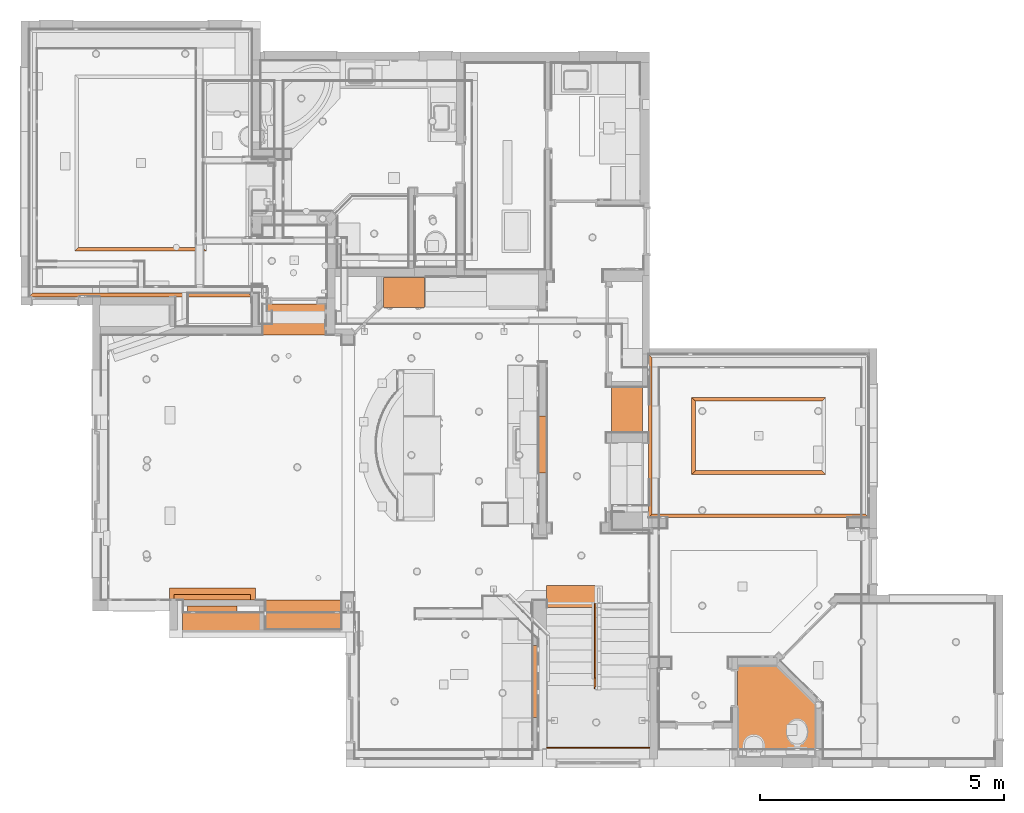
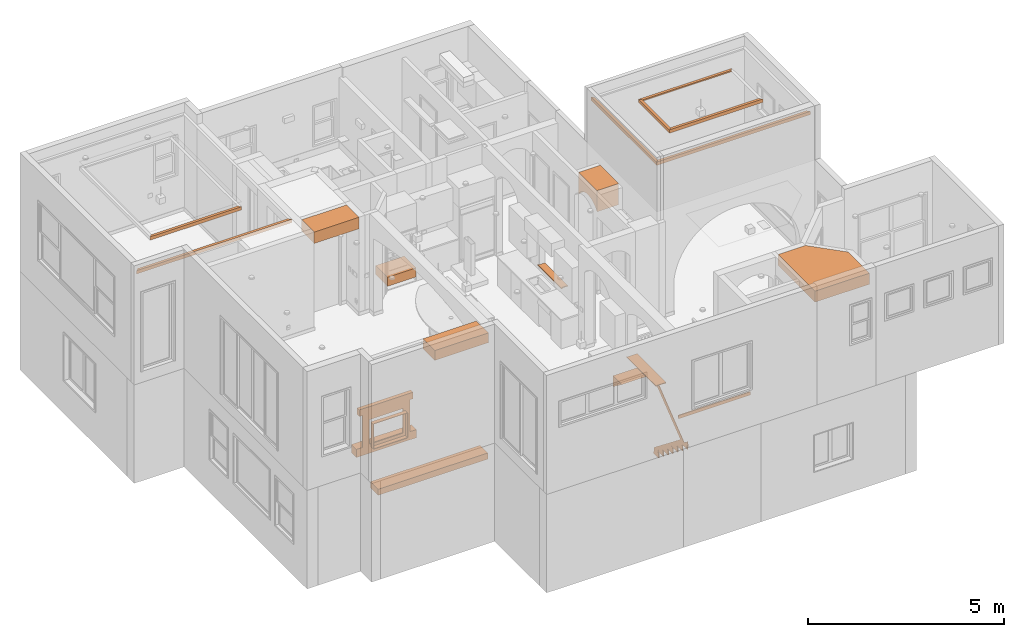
# One storey, part 50 of 60: 19 proxies.
"""IFC2X3 building model written with IfcOpenShell, lengths in feet."""

from ifc_helpers import new_model, entity, si_unit, converted_unit, direction, frame, frame_2d, origin, origin_2d_with_axis, place, context, subcontext, project, spatial, polyline, circle_curve, parameter, trimmed, segment, composite_curve, rectangle, outline, extrude, faceted_brep, source, transform, mapped, material, type_object, type_shapes, element, save


model = new_model("IFC2X3")

# Units and contexts
model_context = context("Model", 3, precision=0.0001, world=origin(), true_north=direction((6.123031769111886e-17, 1.0)))
plan_context = context("Plan", 3, precision=0.0001, world=origin(), true_north=direction((6.123031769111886e-17, 1.0)))
body_context = subcontext(model_context, "Body", "Model", "MODEL_VIEW")
ifc_project = project(units=[converted_unit("LENGTHUNIT", "FOOT", entity("IfcLengthMeasure", 0.3048), si_unit("LENGTHUNIT", "METRE"), dimensions=[1, 0, 0, 0, 0, 0, 0]), converted_unit("AREAUNIT", "SQUARE FOOT", entity("IfcAreaMeasure", 0.09290304), si_unit("AREAUNIT", "SQUARE_METRE"), dimensions=[2, 0, 0, 0, 0, 0, 0]), converted_unit("PLANEANGLEUNIT", "DEGREE", entity("IfcPlaneAngleMeasure", 0.017453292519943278), si_unit("PLANEANGLEUNIT", "RADIAN"), dimensions=[0, 0, 0, 0, 0, 0, 0])], contexts=[model_context, plan_context])

# Site, building, storey
site_placement = place(None, origin())
site = spatial("IfcSite", under=ifc_project, at=site_placement, Name="Default", CompositionType="ELEMENT")
building_placement = place(site_placement, origin())
building = spatial("IfcBuilding", under=site, at=building_placement, CompositionType="ELEMENT")
storey_placement = place(building_placement, origin())
storey = spatial("IfcBuildingStorey", under=building, at=storey_placement, Name="First floor", CompositionType="ELEMENT", Elevation=0.0)

# Proxies
ifc_material = material(Name="Default New Material")
building_element_proxy_type_1 = type_object("IfcBuildingElementProxyType", Name="Generic Models 23:Generic Models 16", PredefinedType="NOTDEFINED", material=ifc_material)
shared_shape_1 = source(origin(), body_context, "Body", "SweptSolid", [
    extrude(outline(polyline([(-2.989399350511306, -2.6272673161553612), (3.1772673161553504, -2.6272673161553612), (3.1772673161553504, 2.6227326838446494), (-0.3757359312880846, 2.6227326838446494), (-2.9893993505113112, 0.009069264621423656), (-2.989399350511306, -2.6272673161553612)])), frame((28.91893398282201, 3.843933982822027, -0.4583333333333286), z_axis=(0.0, 0.0, 1.0), x_axis=(0.0, -1.0, 0.0)), (0.0, 0.0, 1.0), 1.1249999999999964),
])
type_shapes(building_element_proxy_type_1, [shared_shape_1])
proxy_1_placement = place(storey_placement, frame((0.0, 0.0, 20.0)))
element("IfcBuildingElementProxy", 1, at=proxy_1_placement, inside=storey, type_object=building_element_proxy_type_1, material=ifc_material, Name="Generic Models 23:Generic Models 16", ObjectType="Generic Models 23:Generic Models 16", context=body_context, shape_type="MappedRepresentation", body=[
    mapped(shared_shape_1, transform((0.0, 0.0, 0.0), scale=1.0)),
])
building_element_proxy_type_2 = type_object("IfcBuildingElementProxyType", Name="Generic Models 7:Generic Models 7", PredefinedType="NOTDEFINED", material=ifc_material)
shared_shape_2 = source(origin(), body_context, "Body", "SweptSolid", [
    extrude(outline(polyline([(-3.7977218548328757, -0.26228241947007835), (3.4128260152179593, -0.2622824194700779), (3.2791945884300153, -0.09245088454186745), (3.3446850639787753, -0.04091990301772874), (3.168007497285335, 0.1836187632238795), (3.144575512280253, -0.012809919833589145), (2.8466620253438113, 0.3658068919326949), (2.1543342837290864, -0.17894908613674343), (2.1156860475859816, -0.129831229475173), (2.1296455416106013, -0.01280977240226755), (1.8317320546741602, 0.3658070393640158), (1.1394039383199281, -0.17894923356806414), (1.1007557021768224, -0.12983137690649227), (1.1147151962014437, -0.012809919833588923), (0.8168017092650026, 0.36580689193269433), (0.12447396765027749, -0.17894908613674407), (0.08582573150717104, -0.12983122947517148), (0.09978522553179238, -0.01280977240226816), (-0.1981282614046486, 0.3658070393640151), (-0.8904561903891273, -0.17894908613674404), (-0.9291044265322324, -0.12983122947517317), (-0.9151449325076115, -0.01280977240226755), (-1.2130584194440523, 0.3658070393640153), (-1.9053863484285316, -0.17894908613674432), (-1.9440345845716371, -0.12983122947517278), (-1.9300750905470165, -0.012809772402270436), (-2.2279885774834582, 0.36580703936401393), (-2.9203164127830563, -0.17894901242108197), (-2.9589646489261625, -0.12983115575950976), (-2.9450051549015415, -0.012809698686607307), (-3.242918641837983, 0.3658071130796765), (-3.890806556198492, -0.1439815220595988), (-3.7977218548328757, -0.26228241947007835)])), frame((16.66666666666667, 7.8532366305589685, 3.548020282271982), z_axis=(1.0, 0.0, 0.0), x_axis=(0.0, -0.7858857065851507, 0.6183717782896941)), (0.0, 0.0, 1.0), 0.04166666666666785),
    extrude(outline(polyline([(-2.641171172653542, -2.660294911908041), (-2.066489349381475, -2.660294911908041), (1.413779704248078, 1.7627622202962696), (4.520287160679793, -2.1862460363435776), (4.520287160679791, -2.660294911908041), (5.423338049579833, -2.660294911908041), (1.466831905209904, 2.3692360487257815), (1.9236658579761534, 2.949824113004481), (1.1244538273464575, 2.949824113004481), (1.1244538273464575, 2.068871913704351), (1.0619538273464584, 2.068871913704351), (0.9786204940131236, 2.152205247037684), (0.49684966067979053, 2.152205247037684), (0.49684966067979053, 1.271252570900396), (0.43434966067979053, 1.271252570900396), (0.3510163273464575, 1.354585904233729), (-0.13075450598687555, 1.354585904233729), (-0.13075450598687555, 0.473633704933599), (-0.19325450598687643, 0.473633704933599), (-0.27658783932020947, 0.5569670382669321), (-0.7583586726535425, 0.5569670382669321), (-0.7583586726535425, -0.32398539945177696), (-0.8208586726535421, -0.32398539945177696), (-0.9041920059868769, -0.24065206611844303), (-1.385962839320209, -0.24065206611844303), (-1.385962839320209, -1.121604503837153), (-1.448462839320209, -1.121604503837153), (-1.5317961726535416, -1.0382711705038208), (-2.0135670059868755, -1.0382711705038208), (-2.0135670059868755, -1.9192234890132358), (-2.076067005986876, -1.9192234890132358), (-2.159400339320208, -1.8358901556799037), (-2.641171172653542, -1.8358901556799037), (-2.641171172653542, -2.660294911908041)])), frame((16.70833333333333, 8.339705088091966, 3.8963795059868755), z_axis=(1.0, 0.0, 0.0), x_axis=(0.0, 0.0, 1.0)), (0.0, 0.0, 1.0), 0.041666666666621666),
])
type_shapes(building_element_proxy_type_2, [shared_shape_2])
proxy_2_placement = place(storey_placement, origin())
element("IfcBuildingElementProxy", 2, at=proxy_2_placement, inside=storey, type_object=building_element_proxy_type_2, material=ifc_material, Name="Generic Models 7:Generic Models 7", ObjectType="Generic Models 7:Generic Models 7", context=body_context, shape_type="MappedRepresentation", body=[
    mapped(shared_shape_2, transform((0.0, 0.0, 0.0), scale=1.0)),
])
building_element_proxy_type_3 = type_object("IfcBuildingElementProxyType", Name="Generic Models 22:Generic Models 22", PredefinedType="NOTDEFINED", material=ifc_material)
shared_shape_3 = source(origin(), body_context, "Body", "SweptSolid", [
    extrude(rectangle(XDim=0.8333333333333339, YDim=5.791666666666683, at=frame_2d((8.881784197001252e-16, 8.881784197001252e-16), x_axis=(1.0, 0.0))), frame((-8.979166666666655, 11.624999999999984, 10.666666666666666), z_axis=(0.0, 0.0, 1.0), x_axis=(0.0, -1.0, 0.0)), (0.0, 0.0, 1.0), 0.8333333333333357),
    extrude(rectangle(XDim=3.249999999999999, YDim=0.37499999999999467, at=frame_2d((-4.440892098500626e-16, -8.881784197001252e-16), x_axis=(1.0, 0.0))), frame((-9.0, 10.645833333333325, 14.083333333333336)), (0.0, 0.0, 1.0), 0.041666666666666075),
    extrude(rectangle(XDim=3.249999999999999, YDim=0.37499999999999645, at=frame_2d((-4.440892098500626e-16, -1.7763568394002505e-15), x_axis=(1.0, 0.0))), frame((-9.0, 10.645833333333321, 11.54166666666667)), (0.0, 0.0, 1.0), 0.041666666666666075),
    extrude(rectangle(XDim=0.04166666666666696, YDim=0.374999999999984, at=frame_2d((-4.440892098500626e-16, 8.881784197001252e-16), x_axis=(1.0, 0.0))), frame((-7.3541666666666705, 10.645833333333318, 11.583333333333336)), (0.0, 0.0, 1.0), 2.5),
    extrude(rectangle(XDim=0.041666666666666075, YDim=0.37499999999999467, at=frame_2d((8.881784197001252e-16, 8.881784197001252e-16), x_axis=(1.0, 0.0))), frame((-10.645833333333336, 10.645833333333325, 11.583333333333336), z_axis=(0.0, 0.0, 1.0), x_axis=(-1.0, 0.0, 0.0)), (0.0, 0.0, 1.0), 2.5),
    extrude(outline(polyline([(-0.11458333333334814, -2.583333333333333), (0.26041666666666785, -2.583333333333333), (0.2604166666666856, 2.5833333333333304), (-0.11458333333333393, 2.5833333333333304), (-0.11458333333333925, 2.2916666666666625), (-0.031249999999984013, 2.2916666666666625), (-0.03125, -2.2916666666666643), (-0.11458333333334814, -2.291666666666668), (-0.11458333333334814, -2.583333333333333)])), frame((-9.0, 11.322916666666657, 14.750000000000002), z_axis=(0.0, 0.0, 1.0), x_axis=(0.0, 1.0, 0.0)), (0.0, 0.0, 1.0), 0.6666666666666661),
    extrude(outline(polyline([(-1.8333333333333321, -2.0833333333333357), (2.7500000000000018, -2.0833333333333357), (2.7500000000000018, 1.8333333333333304), (-1.8333333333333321, 1.8333333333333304), (-1.8333333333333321, 0.4999999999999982), (-1.8333333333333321, -2.0833333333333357)]), holes=[polyline([(-1.1666666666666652, 0.4999999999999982), (2.083333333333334, 0.4999999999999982), (2.083333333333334, -2.0), (-1.1666666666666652, -2.0), (-1.1666666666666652, 0.4999999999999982)])]), frame((-8.54166666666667, 11.208333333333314, 13.583333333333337), z_axis=(0.0, 1.0, 0.0), x_axis=(-1.0, 0.0, 0.0)), (0.0, 0.0, 1.0), 0.08333333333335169),
])
type_shapes(building_element_proxy_type_3, [shared_shape_3])
proxy_3_placement = place(storey_placement, origin())
element("IfcBuildingElementProxy", 3, at=proxy_3_placement, inside=storey, type_object=building_element_proxy_type_3, material=ifc_material, Name="Generic Models 22:Generic Models 22", ObjectType="Generic Models 22:Generic Models 22", context=body_context, shape_type="MappedRepresentation", body=[
    mapped(shared_shape_3, transform((0.0, 0.0, 0.0), scale=1.0)),
])
building_element_proxy_type_4 = type_object("IfcBuildingElementProxyType", Name="Generic Models 61:Generic Models 61", PredefinedType="NOTDEFINED", material=ifc_material)
shared_shape_4 = source(origin(), body_context, "Body", "SweptSolid", [
    extrude(rectangle(XDim=5.166666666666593, YDim=1.999999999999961, at=frame_2d((-2.220446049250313e-16, -8.881784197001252e-16), x_axis=(1.0, 0.0))), frame((-2.874999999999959, 10.20833333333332, 19.541666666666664), z_axis=(0.0, 0.0, 1.0), x_axis=(-1.0, 0.0, 0.0)), (0.0, 0.0, 1.0), 1.0),
])
type_shapes(building_element_proxy_type_4, [shared_shape_4])
proxy_4_placement = place(storey_placement, origin())
element("IfcBuildingElementProxy", 4, at=proxy_4_placement, inside=storey, type_object=building_element_proxy_type_4, material=ifc_material, Name="Generic Models 61:Generic Models 61", ObjectType="Generic Models 61:Generic Models 61", context=body_context, shape_type="MappedRepresentation", body=[
    mapped(shared_shape_4, transform((0.0, 0.0, 0.0), scale=1.0)),
])
building_element_proxy_type_5 = type_object("IfcBuildingElementProxyType", Name="Generic Models 66:Generic Models 66", PredefinedType="NOTDEFINED", material=ifc_material)
shared_shape_5 = source(origin(), body_context, "Body", "SweptSolid", [
    extrude(rectangle(XDim=4.312500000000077, YDim=2.083333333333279, at=origin_2d_with_axis()), frame((-3.4895833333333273, 30.083333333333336, 19.5)), (0.0, 0.0, 1.0), 1.1666666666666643),
])
type_shapes(building_element_proxy_type_5, [shared_shape_5])
proxy_5_placement = place(storey_placement, origin())
element("IfcBuildingElementProxy", 5, at=proxy_5_placement, inside=storey, type_object=building_element_proxy_type_5, material=ifc_material, Name="Generic Models 66:Generic Models 66", ObjectType="Generic Models 66:Generic Models 66", context=body_context, shape_type="MappedRepresentation", body=[
    mapped(shared_shape_5, transform((0.0, 0.0, 0.0), scale=1.0)),
])
building_element_proxy_type_6 = type_object("IfcBuildingElementProxyType", Name="Generic Models 52:Generic Models 52", PredefinedType="NOTDEFINED", material=ifc_material)
shared_shape_6 = source(origin(), body_context, "Body", "SweptSolid", [
    extrude(outline(composite_curve([segment(polyline([(-1.0833333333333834, -1.5416666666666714), (1.0833333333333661, -1.5416666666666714)]), True, "CONTINUOUS"), segment(trimmed(circle_curve(frame_2d((2.0927083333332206, 0.0), x_axis=(0.0, -1.0)), 1.8427083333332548), [parameter(213.2139611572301)], [parameter(326.7860388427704)], True, "PARAMETER"), False, "CONTINUOUS"), segment(polyline([(1.0833333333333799, 1.5416666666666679), (-1.0833333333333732, 1.541666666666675)]), True, "CONTINUOUS"), segment(polyline([(-1.0833333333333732, 1.541666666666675), (-1.0833333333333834, -1.5416666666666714)]), True, "CONTINUOUS")], self_intersect=False)), frame((17.833333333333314, 23.999654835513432, 19.583333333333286), z_axis=(1.0, 0.0, 0.0), x_axis=(0.0, 0.0, -1.0)), (0.0, 0.0, 1.0), 2.0833333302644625),
])
type_shapes(building_element_proxy_type_6, [shared_shape_6])
proxy_6_placement = place(storey_placement, origin())
element("IfcBuildingElementProxy", 6, at=proxy_6_placement, inside=storey, type_object=building_element_proxy_type_6, material=ifc_material, Name="Generic Models 52:Generic Models 52", ObjectType="Generic Models 52:Generic Models 52", context=body_context, shape_type="MappedRepresentation", body=[
    mapped(shared_shape_6, transform((0.0, 0.0, 0.0), scale=1.0)),
])
building_element_proxy_type_7 = type_object("IfcBuildingElementProxyType", Name="Specialty Equipment_2:Specialty Equipment_2", PredefinedType="NOTDEFINED", material=ifc_material)
shared_shape_7 = source(origin(), body_context, "Body", "SweptSolid", [
    extrude(rectangle(XDim=2.75, YDim=2.0, at=origin_2d_with_axis()), frame((0.0, -1.0, 0.0), z_axis=(0.0, 0.0, 1.0), x_axis=(-1.0, 0.0, 0.0)), (0.0, 0.0, 1.0), 0.9166666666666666),
])
type_shapes(building_element_proxy_type_7, [shared_shape_7])
proxy_7_placement = place(storey_placement, frame((3.8746628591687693, 32.87500000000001, 11.171875)))
element("IfcBuildingElementProxy", 7, at=proxy_7_placement, inside=storey, type_object=building_element_proxy_type_7, material=ifc_material, Name="Specialty Equipment_2:Specialty Equipment_2", ObjectType="Specialty Equipment_2:Specialty Equipment_2", context=body_context, shape_type="MappedRepresentation", body=[
    mapped(shared_shape_7, transform((0.0, 0.0, 0.0), scale=1.0)),
])
building_element_proxy_type_8 = type_object("IfcBuildingElementProxyType", Name="Generic Models 67:Generic Models 67", PredefinedType="NOTDEFINED", material=ifc_material)
shared_shape_8 = source(origin(), body_context, "Body", "SweptSolid", [
    extrude(outline(polyline([(-0.49999999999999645, -0.375), (1.0, -0.375), (-0.49999999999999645, 0.75), (-0.49999999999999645, -0.375)])), frame((13.45833333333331, 11.70833333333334, 9.166666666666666), z_axis=(1.0, 0.0, 0.0), x_axis=(0.0, -1.0, 0.0)), (0.0, 0.0, 1.0), 3.250000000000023),
])
type_shapes(building_element_proxy_type_8, [shared_shape_8])
proxy_8_placement = place(storey_placement, origin())
element("IfcBuildingElementProxy", 8, at=proxy_8_placement, inside=storey, type_object=building_element_proxy_type_8, material=ifc_material, Name="Generic Models 67:Generic Models 67", ObjectType="Generic Models 67:Generic Models 67", context=body_context, shape_type="MappedRepresentation", body=[
    mapped(shared_shape_8, transform((0.0, 0.0, 0.0), scale=1.0)),
])
building_element_proxy_type_9 = type_object("IfcBuildingElementProxyType", Name="Generic Models 38:Generic Models 38", PredefinedType="NOTDEFINED", material=ifc_material)
shared_shape_9 = source(origin(), body_context, "Body", "SweptSolid", [
    extrude(rectangle(XDim=1.2916666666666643, YDim=10.583333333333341, at=frame_2d((8.881784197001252e-16, 0.0), x_axis=(1.0, 0.0))), frame((-5.708333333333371, 9.729166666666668, 7.791666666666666), z_axis=(0.0, 0.0, 1.0), x_axis=(0.0, -1.0, 0.0)), (0.0, 0.0, 1.0), 0.625),
])
type_shapes(building_element_proxy_type_9, [shared_shape_9])
proxy_9_placement = place(storey_placement, origin())
element("IfcBuildingElementProxy", 9, at=proxy_9_placement, inside=storey, type_object=building_element_proxy_type_9, material=ifc_material, Name="Generic Models 38:Generic Models 38", ObjectType="Generic Models 38:Generic Models 38", context=body_context, shape_type="MappedRepresentation", body=[
    mapped(shared_shape_9, transform((0.0, 0.0, 0.0), scale=1.0)),
])
building_element_proxy_type_10 = type_object("IfcBuildingElementProxyType", Name="C_Ceiling Plinth:C_Ceiling Plinth", PredefinedType="NOTDEFINED", material=ifc_material)
shared_shape_10 = source(origin(), body_context, "Body", "Brep", [
    faceted_brep([(9.0, 0.0, 0.0), (9.0, 0.0, -0.33333333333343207), (0.0, 0.0, -0.3333333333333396), (0.0, 0.0, 0.0), (8.75000000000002, -0.2500000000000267, 0.0), (0.25000000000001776, -0.25000000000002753, 0.0)], [[[0, 1, 2, 3]], [[4, 0, 3, 5]], [[1, 4, 5, 2]], [[1, 0, 4]], [[3, 2, 5]]]),
])
type_shapes(building_element_proxy_type_10, [shared_shape_10])
proxy_10_placement = place(storey_placement, frame((23.208333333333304, 24.833333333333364, 26.66666666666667)))
element("IfcBuildingElementProxy", 10, at=proxy_10_placement, inside=storey, type_object=building_element_proxy_type_10, material=ifc_material, Name="C_Ceiling Plinth:C_Ceiling Plinth", ObjectType="C_Ceiling Plinth:C_Ceiling Plinth", context=body_context, shape_type="MappedRepresentation", body=[
    mapped(shared_shape_10, transform((0.0, 0.0, 0.0), scale=1.0)),
])
proxy_11_placement = place(storey_placement, frame((32.20833333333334, 19.66666666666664, 26.66666666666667), z_axis=(0.0, 0.0, 1.0), x_axis=(-1.0, 0.0, 0.0)))
element("IfcBuildingElementProxy", 11, at=proxy_11_placement, inside=storey, type_object=building_element_proxy_type_10, material=ifc_material, Name="C_Ceiling Plinth:C_Ceiling Plinth", ObjectType="C_Ceiling Plinth:C_Ceiling Plinth", context=body_context, shape_type="MappedRepresentation", body=[
    mapped(shared_shape_10, transform((0.0, 0.0, 0.0), scale=1.0)),
])
building_element_proxy_type_11 = type_object("IfcBuildingElementProxyType", Name="C_Ceiling Plinth:C_Ceiling Plinth", PredefinedType="NOTDEFINED", material=ifc_material)
shared_shape_11 = source(origin(), body_context, "Body", "Brep", [
    faceted_brep([(5.166666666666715, 0.0, 0.0), (5.166666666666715, 0.0, -0.3333333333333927), (0.0, 0.0, -0.3333333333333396), (0.0, 0.0, 0.0), (4.916666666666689, -0.25000000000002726, 0.0), (0.25000000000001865, -0.25000000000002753, 0.0)], [[[0, 1, 2, 3]], [[4, 0, 3, 5]], [[1, 4, 5, 2]], [[1, 0, 4]], [[3, 2, 5]]]),
])
type_shapes(building_element_proxy_type_11, [shared_shape_11])
proxy_12_placement = place(storey_placement, frame((23.208333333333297, 19.666666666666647, 26.66666666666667), z_axis=(0.0, 0.0, 1.0), x_axis=(0.0, 1.0, 0.0)))
element("IfcBuildingElementProxy", 12, at=proxy_12_placement, inside=storey, type_object=building_element_proxy_type_11, material=ifc_material, Name="C_Ceiling Plinth:C_Ceiling Plinth", ObjectType="C_Ceiling Plinth:C_Ceiling Plinth", context=body_context, shape_type="MappedRepresentation", body=[
    mapped(shared_shape_11, transform((0.0, 0.0, 0.0), scale=1.0)),
])
building_element_proxy_type_12 = type_object("IfcBuildingElementProxyType", Name="C_Ceiling Plinth:C_Ceiling Plinth", PredefinedType="NOTDEFINED", material=ifc_material)
shared_shape_12 = source(origin(), body_context, "Body", "Brep", [
    faceted_brep([(14.83333333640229, 0.0, 0.0), (14.833333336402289, 0.0, -0.333333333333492), (0.0, 0.0, -0.3333333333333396), (0.0, 0.0, 0.0), (14.583333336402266, -0.25000000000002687, 0.0), (0.25000000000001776, -0.25000000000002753, 0.0)], [[[0, 1, 2, 3]], [[4, 0, 3, 5]], [[1, 4, 5, 2]], [[1, 0, 4]], [[3, 2, 5]]]),
])
type_shapes(building_element_proxy_type_12, [shared_shape_12])
proxy_13_placement = place(storey_placement, frame((35.12500000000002, 16.75000033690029, 26.166666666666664), z_axis=(0.0, 0.0, 1.0), x_axis=(-1.0, 0.0, 0.0)))
element("IfcBuildingElementProxy", 13, at=proxy_13_placement, inside=storey, type_object=building_element_proxy_type_12, material=ifc_material, Name="C_Ceiling Plinth:C_Ceiling Plinth", ObjectType="C_Ceiling Plinth:C_Ceiling Plinth", context=body_context, shape_type="MappedRepresentation", body=[
    mapped(shared_shape_12, transform((0.0, 0.0, 0.0), scale=1.0)),
])
building_element_proxy_type_13 = type_object("IfcBuildingElementProxyType", Name="C_Ceiling Plinth:C_Ceiling Plinth", PredefinedType="NOTDEFINED", material=ifc_material)
shared_shape_13 = source(origin(), body_context, "Body", "Brep", [
    faceted_brep([(10.999999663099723, 0.0, 0.0), (10.999999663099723, 0.0, -0.3333333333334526), (0.0, 0.0, -0.3333333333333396), (0.0, 0.0, 0.0), (10.749999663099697, -0.25000000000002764, 0.0), (0.2500000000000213, -0.25000000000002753, 0.0)], [[[0, 1, 2, 3]], [[4, 0, 3, 5]], [[1, 4, 5, 2]], [[1, 0, 4]], [[3, 2, 5]]]),
])
type_shapes(building_element_proxy_type_13, [shared_shape_13])
proxy_14_placement = place(storey_placement, frame((20.291666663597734, 16.750000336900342, 26.166666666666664), z_axis=(0.0, 0.0, 1.0), x_axis=(0.0, 1.0, 0.0)))
element("IfcBuildingElementProxy", 14, at=proxy_14_placement, inside=storey, type_object=building_element_proxy_type_13, material=ifc_material, Name="C_Ceiling Plinth:C_Ceiling Plinth", ObjectType="C_Ceiling Plinth:C_Ceiling Plinth", context=body_context, shape_type="MappedRepresentation", body=[
    mapped(shared_shape_13, transform((0.0, 0.0, 0.0), scale=1.0)),
])
building_element_proxy_type_14 = type_object("IfcBuildingElementProxyType", Name="C_Ceiling Plinth:C_Ceiling Plinth", PredefinedType="NOTDEFINED", material=ifc_material)
shared_shape_14 = source(origin(), body_context, "Body", "Brep", [
    faceted_brep([(15.0, 0.0, 0.0), (15.0, 0.0, -0.33333333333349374), (0.0, 0.0, -0.3333333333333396), (0.0, 0.0, 0.0), (14.749999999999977, -0.25000000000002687, 0.0), (0.25000000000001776, -0.25000000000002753, 0.0)], [[[0, 1, 2, 3]], [[4, 0, 3, 5]], [[1, 4, 5, 2]], [[1, 0, 4]], [[3, 2, 5]]]),
])
type_shapes(building_element_proxy_type_14, [shared_shape_14])
proxy_15_placement = place(storey_placement, frame((-6.312500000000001, 31.58333333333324, 20.66666666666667), z_axis=(0.0, 0.0, 1.0), x_axis=(-1.0, 0.0, 0.0)))
element("IfcBuildingElementProxy", 15, at=proxy_15_placement, inside=storey, type_object=building_element_proxy_type_14, material=ifc_material, Name="C_Ceiling Plinth:C_Ceiling Plinth", ObjectType="C_Ceiling Plinth:C_Ceiling Plinth", context=body_context, shape_type="MappedRepresentation", body=[
    mapped(shared_shape_14, transform((0.0, 0.0, 0.0), scale=1.0)),
])
building_element_proxy_type_15 = type_object("IfcBuildingElementProxyType", Name="C_Ceiling Plinth:C_Ceiling Plinth", PredefinedType="NOTDEFINED", material=ifc_material)
shared_shape_15 = source(origin(), body_context, "Body", "Brep", [
    faceted_brep([(8.833333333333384, 0.0, 0.0), (8.833333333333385, 0.0, -0.33333333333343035), (0.0, 0.0, -0.3333333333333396), (0.0, 0.0, 0.0), (8.583333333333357, -0.25000000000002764, 0.0), (0.25000000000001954, -0.25000000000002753, 0.0)], [[[0, 1, 2, 3]], [[4, 0, 3, 5]], [[1, 4, 5, 2]], [[1, 0, 4]], [[3, 2, 5]]]),
])
type_shapes(building_element_proxy_type_15, [shared_shape_15])
proxy_16_placement = place(storey_placement, frame((-9.395833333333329, 34.66666666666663, 21.16666666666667), z_axis=(0.0, 0.0, 1.0), x_axis=(-1.0, 0.0, 0.0)))
element("IfcBuildingElementProxy", 16, at=proxy_16_placement, inside=storey, type_object=building_element_proxy_type_15, material=ifc_material, Name="C_Ceiling Plinth:C_Ceiling Plinth", ObjectType="C_Ceiling Plinth:C_Ceiling Plinth", context=body_context, shape_type="MappedRepresentation", body=[
    mapped(shared_shape_15, transform((0.0, 0.0, 0.0), scale=1.0)),
])
building_element_proxy_type_16 = type_object("IfcBuildingElementProxyType", Name="Generic Models 30:Generic Models 30", PredefinedType="NOTDEFINED", material=ifc_material)
shared_shape_16 = source(origin(), body_context, "Body", "SweptSolid", [
    extrude(outline(composite_curve([segment(polyline([(-0.12433681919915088, -0.07075379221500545), (0.20899651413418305, -0.07075379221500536)]), True, "CONTINUOUS"), segment(trimmed(circle_curve(frame_2d((0.17411792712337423, -0.06256578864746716), x_axis=(0.0, 1.0)), 0.03582679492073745), [parameter(256.7886264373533)], [parameter(339.1408824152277)], True, "PARAMETER"), True, "CONTINUOUS"), segment(polyline([(0.18687482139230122, -0.02908712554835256), (0.1197253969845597, -0.029087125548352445)]), True, "CONTINUOUS"), segment(polyline([(0.1197253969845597, -0.029087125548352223), (0.12004678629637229, -0.02080879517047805)]), True, "CONTINUOUS"), segment(polyline([(0.12004678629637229, -0.02080879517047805), (0.11644537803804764, -0.01411286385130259)]), True, "CONTINUOUS"), segment(polyline([(0.11644537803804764, -0.01411286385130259), (0.10941490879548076, -0.008806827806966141)]), True, "CONTINUOUS"), segment(polyline([(0.10941490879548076, -0.008806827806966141), (0.09944911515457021, -0.004698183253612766)]), True, "CONTINUOUS"), segment(polyline([(0.09944911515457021, -0.004698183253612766), (0.08704173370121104, -0.0015944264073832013)]), True, "CONTINUOUS"), segment(polyline([(0.08704173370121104, -0.0015944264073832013), (0.07268650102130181, 0.0006969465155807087)]), True, "CONTINUOUS"), segment(polyline([(0.07268650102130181, 0.0006969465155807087), (0.05687715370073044, 0.0023684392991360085)]), True, "CONTINUOUS"), segment(polyline([(0.05687715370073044, 0.0023684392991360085), (0.04010742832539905, 0.00361255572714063)]), True, "CONTINUOUS"), segment(polyline([(0.04010742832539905, 0.00361255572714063), (0.022871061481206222, 0.004621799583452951)]), True, "CONTINUOUS"), segment(polyline([(0.022871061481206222, 0.004621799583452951), (0.00566178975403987, 0.00558867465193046)]), True, "CONTINUOUS"), segment(polyline([(0.00566178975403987, 0.00558867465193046), (-0.011026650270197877, 0.006705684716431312)]), True, "CONTINUOUS"), segment(polyline([(-0.011026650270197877, 0.006705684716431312), (-0.026700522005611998, 0.00816533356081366)]), True, "CONTINUOUS"), segment(polyline([(-0.026700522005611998, 0.00816533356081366), (-0.04091791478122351, 0.010126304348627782)]), True, "CONTINUOUS"), segment(polyline([(-0.04091791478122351, 0.010126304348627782), (-0.053624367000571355, 0.0124944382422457)]), True, "CONTINUOUS"), segment(polyline([(-0.053624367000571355, 0.0124944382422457), (-0.0649408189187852, 0.015061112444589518)]), True, "CONTINUOUS"), segment(polyline([(-0.0649408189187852, 0.015061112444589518), (-0.07498907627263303, 0.017617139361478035)]), True, "CONTINUOUS"), segment(polyline([(-0.07498907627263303, 0.017617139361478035), (-0.08389094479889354, 0.019953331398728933)]), True, "CONTINUOUS"), segment(polyline([(-0.08389094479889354, 0.019953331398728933), (-0.09176823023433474, 0.021860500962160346)]), True, "CONTINUOUS"), segment(polyline([(-0.09176823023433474, 0.021860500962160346), (-0.0987427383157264, 0.023129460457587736)]), True, "CONTINUOUS"), segment(polyline([(-0.0987427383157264, 0.023129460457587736), (-0.10493627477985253, 0.023551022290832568)]), True, "CONTINUOUS"), segment(polyline([(-0.10493627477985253, 0.023551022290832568), (-0.11047064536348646, 0.02291599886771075)]), True, "CONTINUOUS"), segment(polyline([(-0.11047064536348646, 0.02291599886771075), (-0.11546765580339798, 0.02101520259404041)]), True, "CONTINUOUS"), segment(polyline([(-0.11546765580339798, 0.02101520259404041), (-0.12004911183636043, 0.017639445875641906)]), True, "CONTINUOUS"), segment(polyline([(-0.12004911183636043, 0.017639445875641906), (-0.12433681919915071, 0.012579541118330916)]), True, "CONTINUOUS"), segment(polyline([(-0.12433681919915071, 0.012579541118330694), (-0.12433681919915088, -0.07075379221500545)]), True, "CONTINUOUS")], self_intersect=False)), frame((13.45833333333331, 1.320753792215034, 9.083996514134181), z_axis=(1.0, 0.0, 0.0), x_axis=(0.0, 0.0, -1.0)), (0.0, 0.0, 1.0), 6.916666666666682),
])
type_shapes(building_element_proxy_type_16, [shared_shape_16])
proxy_17_placement = place(storey_placement, frame((0.0, 0.0, 2.916666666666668)))
element("IfcBuildingElementProxy", 17, at=proxy_17_placement, inside=storey, type_object=building_element_proxy_type_16, material=ifc_material, Name="Generic Models 30:Generic Models 30", ObjectType="Generic Models 30:Generic Models 30", context=body_context, shape_type="MappedRepresentation", body=[
    mapped(shared_shape_16, transform((0.0, 0.0, 0.0), scale=1.0)),
])
building_element_proxy_type_17 = type_object("IfcBuildingElementProxyType", Name="Generic Models 14:Generic Models 14", PredefinedType="NOTDEFINED", material=ifc_material)
shared_shape_17 = source(origin(), body_context, "Body", "SweptSolid", [
    extrude(outline(polyline([(-0.2333333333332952, -2.499999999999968), (-0.19166666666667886, -2.499999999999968), (-0.19166666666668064, -2.4166666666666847), (-0.15000000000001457, -2.416666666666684), (0.7666666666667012, -2.4166666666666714), (0.7666666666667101, 2.4166666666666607), (-0.15000000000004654, 2.4166666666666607), (-0.19166666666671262, 2.4166666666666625), (-0.19166666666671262, 2.4999999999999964), (-0.2333333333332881, 2.4999999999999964), (-0.2333333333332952, -2.499999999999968)])), frame((12.691666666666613, 5.750000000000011, 14.16666666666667)), (0.0, 0.0, 1.0), 0.08333333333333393),
])
type_shapes(building_element_proxy_type_17, [shared_shape_17])
proxy_18_placement = place(storey_placement, origin())
element("IfcBuildingElementProxy", 18, at=proxy_18_placement, inside=storey, type_object=building_element_proxy_type_17, material=ifc_material, Name="Generic Models 14:Generic Models 14", ObjectType="Generic Models 14:Generic Models 14", context=body_context, shape_type="MappedRepresentation", body=[
    mapped(shared_shape_17, transform((0.0, 0.0, 0.0), scale=1.0)),
])
building_element_proxy_type_18 = type_object("IfcBuildingElementProxyType", Name="Generic Models 18:Generic Models 18", PredefinedType="NOTDEFINED", material=ifc_material)
shared_shape_18 = source(origin(), body_context, "Body", "SweptSolid", [
    extrude(outline(polyline([(-0.19907407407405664, -1.787037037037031), (-0.11574074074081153, -1.787037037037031), (-0.11574074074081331, -1.7037037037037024), (-0.07407407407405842, -1.7037037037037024), (0.46759259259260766, -1.7037037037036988), (0.46759259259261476, 2.1296296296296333), (-0.11574074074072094, 2.1296296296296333), (-0.11574074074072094, 2.2129629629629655), (-0.1990740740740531, 2.2129629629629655), (-0.19907407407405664, -1.787037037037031)])), frame((12.99074074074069, 21.45335853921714, 14.083333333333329)), (0.0, 0.0, 1.0), 0.08333333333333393),
])
type_shapes(building_element_proxy_type_18, [shared_shape_18])
proxy_19_placement = place(storey_placement, origin())
element("IfcBuildingElementProxy", 19, at=proxy_19_placement, inside=storey, type_object=building_element_proxy_type_18, material=ifc_material, Name="Generic Models 18:Generic Models 18", ObjectType="Generic Models 18:Generic Models 18", context=body_context, shape_type="MappedRepresentation", body=[
    mapped(shared_shape_18, transform((0.0, 0.0, 0.0), scale=1.0)),
])

save(model, "model.ifc")
